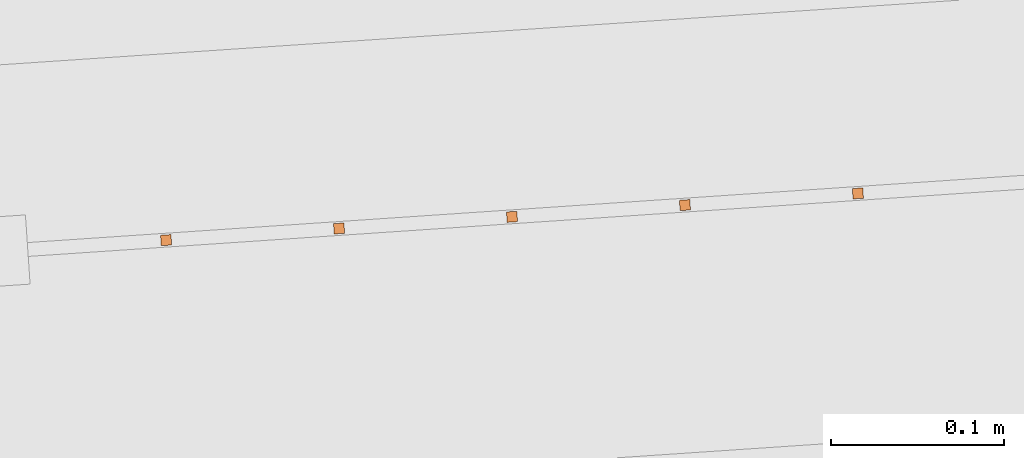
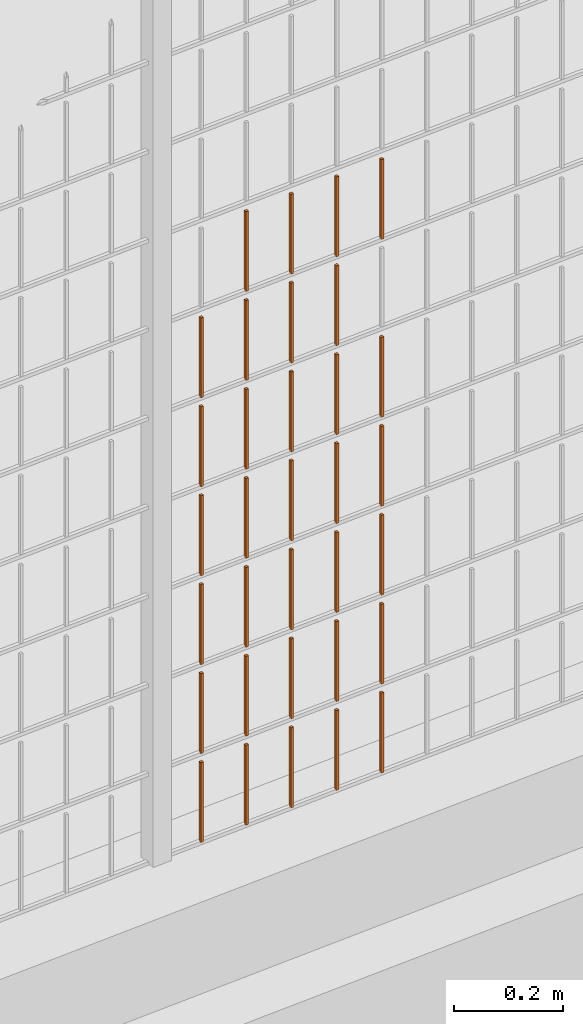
# One storey, part 298 of 1809: 33 proxies, 1 element without a shape of its own.
"""IFC2X3 building model written with IfcOpenShell, lengths in millimetres."""

from ifc_helpers import new_model, entity, si_unit, converted_unit, derived_unit, money_unit, direction, frame, origin_with_axes, place, context, subcontext, project, spatial, faceted_brep, source, transform, mapped, material, type_object, element, aggregate, save


model = new_model("IFC2X3")

# Units and contexts
model_context = context("Model", 3, precision=0.01, world=origin_with_axes(), true_north=direction((0.0, 1.0)))
body_context = subcontext(model_context, "Body", "Model", "MODEL_VIEW")
ifc_project = project(units=[si_unit("LENGTHUNIT", "METRE", prefix="MILLI"), si_unit("AREAUNIT", "SQUARE_METRE"), si_unit("VOLUMEUNIT", "CUBIC_METRE"), converted_unit("PLANEANGLEUNIT", "DEGREE", entity("IfcPlaneAngleMeasure", 0.0174532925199), si_unit("PLANEANGLEUNIT", "RADIAN"), dimensions=[0, 0, 0, 0, 0, 0, 0]), si_unit("SOLIDANGLEUNIT", "STERADIAN"), money_unit("EUR"), converted_unit("TIMEUNIT", "Year", entity("IfcTimeMeasure", 31556926.0), si_unit("TIMEUNIT", "SECOND"), dimensions=[0, 0, 1, 0, 0, 0, 0]), si_unit("MASSUNIT", "GRAM", prefix="KILO"), si_unit("THERMODYNAMICTEMPERATUREUNIT", "DEGREE_CELSIUS"), si_unit("LUMINOUSINTENSITYUNIT", "LUMEN"), si_unit("ENERGYUNIT", "JOULE", prefix="MEGA"), derived_unit("THERMALCONDUCTANCEUNIT", [(si_unit("POWERUNIT", "WATT"), 1), (si_unit("LENGTHUNIT", "METRE"), -1), (si_unit("THERMODYNAMICTEMPERATUREUNIT", "KELVIN"), -1)]), derived_unit("SPECIFICHEATCAPACITYUNIT", [(si_unit("ENERGYUNIT", "JOULE"), 1), (si_unit("MASSUNIT", "GRAM", prefix="KILO"), -1), (si_unit("THERMODYNAMICTEMPERATUREUNIT", "KELVIN"), -1)]), derived_unit("MASSDENSITYUNIT", [(si_unit("MASSUNIT", "GRAM", prefix="KILO"), 1), (si_unit("VOLUMEUNIT", "CUBIC_METRE"), -1)])], contexts=[model_context])

# Site, building, storey
site_placement = place(None, origin_with_axes())
site = spatial("IfcSite", under=ifc_project, at=site_placement, Name="Politse- ja Piirivalveameti ning Päästeameti ühishoone", CompositionType="ELEMENT")
building_placement = place(site_placement, origin_with_axes())
building = spatial("IfcBuilding", under=site, at=building_placement, Name="Politse- ja Piirivalveameti ning Päästeameti ühishoone", CompositionType="ELEMENT")
storey_placement = place(building_placement, origin_with_axes())
storey = spatial("IfcBuildingStorey", under=building, at=storey_placement, Name="Esimene korrus", CompositionType="ELEMENT", Elevation=0.0)

# Proxies
building_element_proxy_type_1 = type_object("IfcBuildingElementProxyType", Name="Railing Type", PredefinedType="NOTDEFINED")
proxy_1_placement = place(storey_placement, frame((89252.001212, -29183.4766571, 203.661247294), z_axis=(0.0, 0.0, 1.0), x_axis=(1.0, 0.0, 0.0)))
proxy_1 = element("IfcBuildingElementProxy", 1, at=proxy_1_placement, inside=storey, type_object=building_element_proxy_type_1, Name="PIIRDEAED")
ifc_material = material(Name="ET-03_Raud")
building_element_proxy_type_2 = type_object("IfcBuildingElementProxyType", Name="IfcBuildingElementProxy", PredefinedType="NOTDEFINED")
shared_shape_1 = source(origin_with_axes(), body_context, "Body", "Brep", [
    faceted_brep([(3.0, 3.0, -0.000752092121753), (-3.0, 3.0, -0.000752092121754), (-3.0, 3.0, 179.99926046), (3.0, 3.0, 179.99926046), (3.0, -3.0, 0.000752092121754), (-3.0, -3.0, 0.000752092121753), (-3.0, -3.0, 180.000764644), (3.0, -3.0, 180.000764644)], [[[0, 1, 2, 3]], [[0, 4, 5, 1]], [[1, 5, 6, 2]], [[3, 2, 6, 7]], [[4, 0, 3, 7]], [[5, 4, 7, 6]]]),
])
proxy_2_placement = place(proxy_1_placement, frame((-44225.9125845, -20285.0682541, 1216.12180124), z_axis=(0.0, 0.0, 1.0), x_axis=(1.0, 0.0, 0.0)))
proxy_2 = element("IfcBuildingElementProxy", 2, at=proxy_2_placement, type_object=building_element_proxy_type_2, material=ifc_material, Name="BALUSTER - 001", context=body_context, shape_type="MappedRepresentation", body=[
    mapped(shared_shape_1, transform((0.0, 0.0, 0.0), x_axis=(-0.0673926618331, 0.997726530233, 0.0), y_axis=(-0.997726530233, -0.0673926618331, 0.0), z_axis=(0.0, 0.0, 1.0))),
])
shared_shape_2 = source(origin_with_axes(), body_context, "Body", "Brep", [
    faceted_brep([(3.0, 3.0, -0.000752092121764), (-3.0, 3.0, -0.000752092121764), (-3.0, 3.0, 179.99926046), (3.0, 3.0, 179.99926046), (3.0, -3.0, 0.000752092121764), (-3.0, -3.0, 0.000752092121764), (-3.0, -3.0, 180.000764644), (3.0, -3.0, 180.000764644)], [[[0, 1, 2, 3]], [[0, 4, 5, 1]], [[1, 5, 6, 2]], [[3, 2, 6, 7]], [[4, 0, 3, 7]], [[5, 4, 7, 6]]]),
])
proxy_3_placement = place(proxy_1_placement, frame((-44325.6852375, -20291.8075203, 616.096731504), z_axis=(0.0, 0.0, 1.0), x_axis=(1.0, 0.0, 0.0)))
proxy_3 = element("IfcBuildingElementProxy", 3, at=proxy_3_placement, type_object=building_element_proxy_type_2, material=ifc_material, Name="BALUSTER - 001", context=body_context, shape_type="MappedRepresentation", body=[
    mapped(shared_shape_2, transform((0.0, 0.0, 0.0), x_axis=(-0.0673926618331, 0.997726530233, 0.0), y_axis=(-0.997726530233, -0.0673926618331, 0.0), z_axis=(0.0, 0.0, 1.0))),
])
shared_shape_3 = source(origin_with_axes(), body_context, "Body", "Brep", [
    faceted_brep([(3.0, 3.0, -0.000752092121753), (-3.0, 3.0, -0.000752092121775), (-3.0, 3.0, 179.99926046), (3.0, 3.0, 179.99926046), (3.0, -3.0, 0.000752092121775), (-3.0, -3.0, 0.000752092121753), (-3.0, -3.0, 180.000764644), (3.0, -3.0, 180.000764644)], [[[0, 1, 2, 3]], [[0, 4, 5, 1]], [[1, 5, 6, 2]], [[3, 2, 6, 7]], [[4, 0, 3, 7]], [[5, 4, 7, 6]]]),
])
proxy_4_placement = place(proxy_1_placement, frame((-44625.0031966, -20312.0253189, 616.021522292), z_axis=(0.0, 0.0, 1.0), x_axis=(1.0, 0.0, 0.0)))
proxy_4 = element("IfcBuildingElementProxy", 4, at=proxy_4_placement, type_object=building_element_proxy_type_2, material=ifc_material, Name="BALUSTER - 001", context=body_context, shape_type="MappedRepresentation", body=[
    mapped(shared_shape_3, transform((0.0, 0.0, 0.0), x_axis=(-0.0673926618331, 0.997726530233, 0.0), y_axis=(-0.997726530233, -0.0673926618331, 0.0), z_axis=(0.0, 0.0, 1.0))),
])
shared_shape_4 = source(origin_with_axes(), body_context, "Body", "Brep", [
    faceted_brep([(3.0, 3.0, -0.000752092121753), (-3.0, 3.0, -0.000752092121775), (-3.0, 3.0, 179.99926046), (3.0, 3.0, 179.99926046), (3.0, -3.0, 0.000752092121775), (-3.0, -3.0, 0.000752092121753), (-3.0, -3.0, 180.000764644), (3.0, -3.0, 180.000764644)], [[[0, 1, 2, 3]], [[0, 4, 5, 1]], [[1, 5, 6, 2]], [[3, 2, 6, 7]], [[4, 0, 3, 7]], [[5, 4, 7, 6]]]),
])
proxy_5_placement = place(proxy_1_placement, frame((-44625.0031966, -20312.0253189, 416.021522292), z_axis=(0.0, 0.0, 1.0), x_axis=(1.0, 0.0, 0.0)))
proxy_5 = element("IfcBuildingElementProxy", 5, at=proxy_5_placement, type_object=building_element_proxy_type_2, material=ifc_material, Name="BALUSTER - 001", context=body_context, shape_type="MappedRepresentation", body=[
    mapped(shared_shape_4, transform((0.0, 0.0, 0.0), x_axis=(-0.0673926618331, 0.997726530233, 0.0), y_axis=(-0.997726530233, -0.0673926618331, 0.0), z_axis=(0.0, 0.0, 1.0))),
])
shared_shape_5 = source(origin_with_axes(), body_context, "Body", "Brep", [
    faceted_brep([(3.0, 3.0, -0.000752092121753), (-3.0, 3.0, -0.000752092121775), (-3.0, 3.0, 179.99926046), (3.0, 3.0, 179.99926046), (3.0, -3.0, 0.000752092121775), (-3.0, -3.0, 0.000752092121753), (-3.0, -3.0, 180.000764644), (3.0, -3.0, 180.000764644)], [[[0, 1, 2, 3]], [[0, 4, 5, 1]], [[1, 5, 6, 2]], [[3, 2, 6, 7]], [[4, 0, 3, 7]], [[5, 4, 7, 6]]]),
])
proxy_6_placement = place(proxy_1_placement, frame((-44525.2305436, -20305.2860527, 216.04659203), z_axis=(0.0, 0.0, 1.0), x_axis=(1.0, 0.0, 0.0)))
proxy_6 = element("IfcBuildingElementProxy", 6, at=proxy_6_placement, type_object=building_element_proxy_type_2, material=ifc_material, Name="BALUSTER - 001", context=body_context, shape_type="MappedRepresentation", body=[
    mapped(shared_shape_5, transform((0.0, 0.0, 0.0), x_axis=(-0.0673926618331, 0.997726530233, 0.0), y_axis=(-0.997726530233, -0.0673926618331, 0.0), z_axis=(0.0, 0.0, 1.0))),
])
shared_shape_6 = source(origin_with_axes(), body_context, "Body", "Brep", [
    faceted_brep([(3.0, 3.0, -0.000752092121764), (-3.0, 3.0, -0.000752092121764), (-3.0, 3.0, 179.99926046), (3.0, 3.0, 179.99926046), (3.0, -3.0, 0.000752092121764), (-3.0, -3.0, 0.000752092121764), (-3.0, -3.0, 180.000764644), (3.0, -3.0, 180.000764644)], [[[0, 1, 2, 3]], [[0, 4, 5, 1]], [[1, 5, 6, 2]], [[3, 2, 6, 7]], [[4, 0, 3, 7]], [[5, 4, 7, 6]]]),
])
proxy_7_placement = place(proxy_1_placement, frame((-44325.6852375, -20291.8075203, 416.096731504), z_axis=(0.0, 0.0, 1.0), x_axis=(1.0, 0.0, 0.0)))
proxy_7 = element("IfcBuildingElementProxy", 7, at=proxy_7_placement, type_object=building_element_proxy_type_2, material=ifc_material, Name="BALUSTER - 001", context=body_context, shape_type="MappedRepresentation", body=[
    mapped(shared_shape_6, transform((0.0, 0.0, 0.0), x_axis=(-0.0673926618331, 0.997726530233, 0.0), y_axis=(-0.997726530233, -0.0673926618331, 0.0), z_axis=(0.0, 0.0, 1.0))),
])
shared_shape_7 = source(origin_with_axes(), body_context, "Body", "Brep", [
    faceted_brep([(3.0, 3.0, -0.000752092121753), (-3.0, 3.0, -0.000752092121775), (-3.0, 3.0, 179.99926046), (3.0, 3.0, 179.99926046), (3.0, -3.0, 0.000752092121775), (-3.0, -3.0, 0.000752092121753), (-3.0, -3.0, 180.000764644), (3.0, -3.0, 180.000764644)], [[[0, 1, 2, 3]], [[0, 4, 5, 1]], [[1, 5, 6, 2]], [[3, 2, 6, 7]], [[4, 0, 3, 7]], [[5, 4, 7, 6]]]),
])
proxy_8_placement = place(proxy_1_placement, frame((-44525.2305436, -20305.2860527, 416.04659203), z_axis=(0.0, 0.0, 1.0), x_axis=(1.0, 0.0, 0.0)))
proxy_8 = element("IfcBuildingElementProxy", 8, at=proxy_8_placement, type_object=building_element_proxy_type_2, material=ifc_material, Name="BALUSTER - 001", context=body_context, shape_type="MappedRepresentation", body=[
    mapped(shared_shape_7, transform((0.0, 0.0, 0.0), x_axis=(-0.0673926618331, 0.997726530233, 0.0), y_axis=(-0.997726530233, -0.0673926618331, 0.0), z_axis=(0.0, 0.0, 1.0))),
])
shared_shape_8 = source(origin_with_axes(), body_context, "Body", "Brep", [
    faceted_brep([(3.0, 3.0, -0.000752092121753), (-3.0, 3.0, -0.000752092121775), (-3.0, 3.0, 179.99926046), (3.0, 3.0, 179.99926046), (3.0, -3.0, 0.000752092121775), (-3.0, -3.0, 0.000752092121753), (-3.0, -3.0, 180.000764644), (3.0, -3.0, 180.000764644)], [[[0, 1, 2, 3]], [[0, 4, 5, 1]], [[1, 5, 6, 2]], [[3, 2, 6, 7]], [[4, 0, 3, 7]], [[5, 4, 7, 6]]]),
])
proxy_9_placement = place(proxy_1_placement, frame((-44525.2305436, -20305.2860527, 616.04659203), z_axis=(0.0, 0.0, 1.0), x_axis=(1.0, 0.0, 0.0)))
proxy_9 = element("IfcBuildingElementProxy", 9, at=proxy_9_placement, type_object=building_element_proxy_type_2, material=ifc_material, Name="BALUSTER - 001", context=body_context, shape_type="MappedRepresentation", body=[
    mapped(shared_shape_8, transform((0.0, 0.0, 0.0), x_axis=(-0.0673926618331, 0.997726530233, 0.0), y_axis=(-0.997726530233, -0.0673926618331, 0.0), z_axis=(0.0, 0.0, 1.0))),
])
shared_shape_9 = source(origin_with_axes(), body_context, "Body", "Brep", [
    faceted_brep([(3.0, 3.0, -0.000752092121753), (-3.0, 3.0, -0.000752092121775), (-3.0, 3.0, 179.99926046), (3.0, 3.0, 179.99926046), (3.0, -3.0, 0.000752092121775), (-3.0, -3.0, 0.000752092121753), (-3.0, -3.0, 180.000764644), (3.0, -3.0, 180.000764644)], [[[0, 1, 2, 3]], [[0, 4, 5, 1]], [[1, 5, 6, 2]], [[3, 2, 6, 7]], [[4, 0, 3, 7]], [[5, 4, 7, 6]]]),
])
proxy_10_placement = place(proxy_1_placement, frame((-44525.2305436, -20305.2860527, 816.04659203), z_axis=(0.0, 0.0, 1.0), x_axis=(1.0, 0.0, 0.0)))
proxy_10 = element("IfcBuildingElementProxy", 10, at=proxy_10_placement, type_object=building_element_proxy_type_2, material=ifc_material, Name="BALUSTER - 001", context=body_context, shape_type="MappedRepresentation", body=[
    mapped(shared_shape_9, transform((0.0, 0.0, 0.0), x_axis=(-0.0673926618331, 0.997726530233, 0.0), y_axis=(-0.997726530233, -0.0673926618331, 0.0), z_axis=(0.0, 0.0, 1.0))),
])
shared_shape_10 = source(origin_with_axes(), body_context, "Body", "Brep", [
    faceted_brep([(3.0, 3.0, -0.000752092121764), (-3.0, 3.0, -0.000752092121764), (-3.0, 3.0, 179.99926046), (3.0, 3.0, 179.99926046), (3.0, -3.0, 0.000752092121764), (-3.0, -3.0, 0.000752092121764), (-3.0, -3.0, 180.000764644), (3.0, -3.0, 180.000764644)], [[[0, 1, 2, 3]], [[0, 4, 5, 1]], [[1, 5, 6, 2]], [[3, 2, 6, 7]], [[4, 0, 3, 7]], [[5, 4, 7, 6]]]),
])
proxy_11_placement = place(proxy_1_placement, frame((-44325.6852375, -20291.8075203, 816.096731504), z_axis=(0.0, 0.0, 1.0), x_axis=(1.0, 0.0, 0.0)))
proxy_11 = element("IfcBuildingElementProxy", 11, at=proxy_11_placement, type_object=building_element_proxy_type_2, material=ifc_material, Name="BALUSTER - 001", context=body_context, shape_type="MappedRepresentation", body=[
    mapped(shared_shape_10, transform((0.0, 0.0, 0.0), x_axis=(-0.0673926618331, 0.997726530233, 0.0), y_axis=(-0.997726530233, -0.0673926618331, 0.0), z_axis=(0.0, 0.0, 1.0))),
])
proxy_12_placement = place(proxy_1_placement, frame((-44425.4578906, -20298.5467865, 1216.07166177), z_axis=(0.0, 0.0, 1.0), x_axis=(1.0, 0.0, 0.0)))
proxy_12 = element("IfcBuildingElementProxy", 12, at=proxy_12_placement, type_object=building_element_proxy_type_2, material=ifc_material, Name="BALUSTER - 001", context=body_context, shape_type="MappedRepresentation", body=[
    mapped(shared_shape_10, transform((0.0, 0.0, 0.0), x_axis=(-0.0673926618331, 0.997726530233, 0.0), y_axis=(-0.997726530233, -0.0673926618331, 0.0), z_axis=(0.0, 0.0, 1.0))),
])
shared_shape_11 = source(origin_with_axes(), body_context, "Body", "Brep", [
    faceted_brep([(3.0, 3.0, -0.000752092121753), (-3.0, 3.0, -0.000752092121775), (-3.0, 3.0, 179.99926046), (3.0, 3.0, 179.99926046), (3.0, -3.0, 0.000752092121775), (-3.0, -3.0, 0.000752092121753), (-3.0, -3.0, 180.000764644), (3.0, -3.0, 180.000764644)], [[[0, 1, 2, 3]], [[0, 4, 5, 1]], [[1, 5, 6, 2]], [[3, 2, 6, 7]], [[4, 0, 3, 7]], [[5, 4, 7, 6]]]),
])
proxy_13_placement = place(proxy_1_placement, frame((-44625.0031966, -20312.0253189, 816.021522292), z_axis=(0.0, 0.0, 1.0), x_axis=(1.0, 0.0, 0.0)))
proxy_13 = element("IfcBuildingElementProxy", 13, at=proxy_13_placement, type_object=building_element_proxy_type_2, material=ifc_material, Name="BALUSTER - 001", context=body_context, shape_type="MappedRepresentation", body=[
    mapped(shared_shape_11, transform((0.0, 0.0, 0.0), x_axis=(-0.0673926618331, 0.997726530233, 0.0), y_axis=(-0.997726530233, -0.0673926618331, 0.0), z_axis=(0.0, 0.0, 1.0))),
])
shared_shape_12 = source(origin_with_axes(), body_context, "Body", "Brep", [
    faceted_brep([(3.0, 3.0, -0.000752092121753), (-3.0, 3.0, -0.000752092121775), (-3.0, 3.0, 179.99926046), (3.0, 3.0, 179.99926046), (3.0, -3.0, 0.000752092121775), (-3.0, -3.0, 0.000752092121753), (-3.0, -3.0, 180.000764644), (3.0, -3.0, 180.000764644)], [[[0, 1, 2, 3]], [[0, 4, 5, 1]], [[1, 5, 6, 2]], [[3, 2, 6, 7]], [[4, 0, 3, 7]], [[5, 4, 7, 6]]]),
])
proxy_14_placement = place(proxy_1_placement, frame((-44625.0031966, -20312.0253189, 16.0215222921), z_axis=(0.0, 0.0, 1.0), x_axis=(1.0, 0.0, 0.0)))
proxy_14 = element("IfcBuildingElementProxy", 14, at=proxy_14_placement, type_object=building_element_proxy_type_2, material=ifc_material, Name="BALUSTER - 001", context=body_context, shape_type="MappedRepresentation", body=[
    mapped(shared_shape_12, transform((0.0, 0.0, 0.0), x_axis=(-0.0673926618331, 0.997726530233, 0.0), y_axis=(-0.997726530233, -0.0673926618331, 0.0), z_axis=(0.0, 0.0, 1.0))),
])
shared_shape_13 = source(origin_with_axes(), body_context, "Body", "Brep", [
    faceted_brep([(3.0, 3.0, -0.000752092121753), (-3.0, 3.0, -0.000752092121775), (-3.0, 3.0, 179.99926046), (3.0, 3.0, 179.99926046), (3.0, -3.0, 0.000752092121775), (-3.0, -3.0, 0.000752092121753), (-3.0, -3.0, 180.000764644), (3.0, -3.0, 180.000764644)], [[[0, 1, 2, 3]], [[0, 4, 5, 1]], [[1, 5, 6, 2]], [[3, 2, 6, 7]], [[4, 0, 3, 7]], [[5, 4, 7, 6]]]),
])
proxy_15_placement = place(proxy_1_placement, frame((-44425.4578906, -20298.5467865, 216.071661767), z_axis=(0.0, 0.0, 1.0), x_axis=(1.0, 0.0, 0.0)))
proxy_15 = element("IfcBuildingElementProxy", 15, at=proxy_15_placement, type_object=building_element_proxy_type_2, material=ifc_material, Name="BALUSTER - 001", context=body_context, shape_type="MappedRepresentation", body=[
    mapped(shared_shape_13, transform((0.0, 0.0, 0.0), x_axis=(-0.0673926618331, 0.997726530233, 0.0), y_axis=(-0.997726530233, -0.0673926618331, 0.0), z_axis=(0.0, 0.0, 1.0))),
])
proxy_16_placement = place(proxy_1_placement, frame((-44425.4578906, -20298.5467865, 416.071661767), z_axis=(0.0, 0.0, 1.0), x_axis=(1.0, 0.0, 0.0)))
proxy_16 = element("IfcBuildingElementProxy", 16, at=proxy_16_placement, type_object=building_element_proxy_type_2, material=ifc_material, Name="BALUSTER - 001", context=body_context, shape_type="MappedRepresentation", body=[
    mapped(shared_shape_13, transform((0.0, 0.0, 0.0), x_axis=(-0.0673926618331, 0.997726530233, 0.0), y_axis=(-0.997726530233, -0.0673926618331, 0.0), z_axis=(0.0, 0.0, 1.0))),
])
shared_shape_14 = source(origin_with_axes(), body_context, "Body", "Brep", [
    faceted_brep([(3.0, 3.0, -0.000752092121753), (-3.0, 3.0, -0.000752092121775), (-3.0, 3.0, 179.99926046), (3.0, 3.0, 179.99926046), (3.0, -3.0, 0.000752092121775), (-3.0, -3.0, 0.000752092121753), (-3.0, -3.0, 180.000764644), (3.0, -3.0, 180.000764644)], [[[0, 1, 2, 3]], [[0, 4, 5, 1]], [[1, 5, 6, 2]], [[3, 2, 6, 7]], [[4, 0, 3, 7]], [[5, 4, 7, 6]]]),
])
proxy_17_placement = place(proxy_1_placement, frame((-44625.0031966, -20312.0253189, 216.021522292), z_axis=(0.0, 0.0, 1.0), x_axis=(1.0, 0.0, 0.0)))
proxy_17 = element("IfcBuildingElementProxy", 17, at=proxy_17_placement, type_object=building_element_proxy_type_2, material=ifc_material, Name="BALUSTER - 001", context=body_context, shape_type="MappedRepresentation", body=[
    mapped(shared_shape_14, transform((0.0, 0.0, 0.0), x_axis=(-0.0673926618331, 0.997726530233, 0.0), y_axis=(-0.997726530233, -0.0673926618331, 0.0), z_axis=(0.0, 0.0, 1.0))),
])
shared_shape_15 = source(origin_with_axes(), body_context, "Body", "Brep", [
    faceted_brep([(3.0, 3.0, -0.000752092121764), (-3.0, 3.0, -0.000752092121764), (-3.0, 3.0, 179.99926046), (3.0, 3.0, 179.99926046), (3.0, -3.0, 0.000752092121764), (-3.0, -3.0, 0.000752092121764), (-3.0, -3.0, 180.000764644), (3.0, -3.0, 180.000764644)], [[[0, 1, 2, 3]], [[0, 4, 5, 1]], [[1, 5, 6, 2]], [[3, 2, 6, 7]], [[4, 0, 3, 7]], [[5, 4, 7, 6]]]),
])
proxy_18_placement = place(proxy_1_placement, frame((-44225.9125845, -20285.0682541, 216.121801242), z_axis=(0.0, 0.0, 1.0), x_axis=(1.0, 0.0, 0.0)))
proxy_18 = element("IfcBuildingElementProxy", 18, at=proxy_18_placement, type_object=building_element_proxy_type_2, material=ifc_material, Name="BALUSTER - 001", context=body_context, shape_type="MappedRepresentation", body=[
    mapped(shared_shape_15, transform((0.0, 0.0, 0.0), x_axis=(-0.0673926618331, 0.997726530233, 0.0), y_axis=(-0.997726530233, -0.0673926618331, 0.0), z_axis=(0.0, 0.0, 1.0))),
])
proxy_19_placement = place(proxy_1_placement, frame((-44225.9125845, -20285.0682541, 416.121801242), z_axis=(0.0, 0.0, 1.0), x_axis=(1.0, 0.0, 0.0)))
proxy_19 = element("IfcBuildingElementProxy", 19, at=proxy_19_placement, type_object=building_element_proxy_type_2, material=ifc_material, Name="BALUSTER - 001", context=body_context, shape_type="MappedRepresentation", body=[
    mapped(shared_shape_15, transform((0.0, 0.0, 0.0), x_axis=(-0.0673926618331, 0.997726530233, 0.0), y_axis=(-0.997726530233, -0.0673926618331, 0.0), z_axis=(0.0, 0.0, 1.0))),
])
shared_shape_16 = source(origin_with_axes(), body_context, "Body", "Brep", [
    faceted_brep([(3.0, 3.0, -0.000752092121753), (-3.0, 3.0, -0.000752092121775), (-3.0, 3.0, 179.99926046), (3.0, 3.0, 179.99926046), (3.0, -3.0, 0.000752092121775), (-3.0, -3.0, 0.000752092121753), (-3.0, -3.0, 180.000764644), (3.0, -3.0, 180.000764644)], [[[0, 1, 2, 3]], [[0, 4, 5, 1]], [[1, 5, 6, 2]], [[3, 2, 6, 7]], [[4, 0, 3, 7]], [[5, 4, 7, 6]]]),
])
proxy_20_placement = place(proxy_1_placement, frame((-44425.4578906, -20298.5467865, 616.071661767), z_axis=(0.0, 0.0, 1.0), x_axis=(1.0, 0.0, 0.0)))
proxy_20 = element("IfcBuildingElementProxy", 20, at=proxy_20_placement, type_object=building_element_proxy_type_2, material=ifc_material, Name="BALUSTER - 001", context=body_context, shape_type="MappedRepresentation", body=[
    mapped(shared_shape_16, transform((0.0, 0.0, 0.0), x_axis=(-0.0673926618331, 0.997726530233, 0.0), y_axis=(-0.997726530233, -0.0673926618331, 0.0), z_axis=(0.0, 0.0, 1.0))),
])
proxy_21_placement = place(proxy_1_placement, frame((-44425.4578906, -20298.5467865, 816.071661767), z_axis=(0.0, 0.0, 1.0), x_axis=(1.0, 0.0, 0.0)))
proxy_21 = element("IfcBuildingElementProxy", 21, at=proxy_21_placement, type_object=building_element_proxy_type_2, material=ifc_material, Name="BALUSTER - 001", context=body_context, shape_type="MappedRepresentation", body=[
    mapped(shared_shape_16, transform((0.0, 0.0, 0.0), x_axis=(-0.0673926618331, 0.997726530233, 0.0), y_axis=(-0.997726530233, -0.0673926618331, 0.0), z_axis=(0.0, 0.0, 1.0))),
])
shared_shape_17 = source(origin_with_axes(), body_context, "Body", "Brep", [
    faceted_brep([(3.0, 3.0, -0.000752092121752), (-3.0, 3.0, -0.000752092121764), (-3.00000000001, 2.99999999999, 179.99926046), (2.99999999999, 2.99999999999, 179.99926046), (3.0, -3.0, 0.000752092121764), (-3.0, -3.0, 0.000752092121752), (-3.00000000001, -3.00000000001, 180.000764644), (2.99999999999, -3.00000000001, 180.000764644)], [[[0, 1, 2, 3]], [[0, 4, 5, 1]], [[1, 5, 6, 2]], [[3, 2, 6, 7]], [[4, 0, 3, 7]], [[5, 4, 7, 6]]]),
])
proxy_22_placement = place(proxy_1_placement, frame((-44325.6852375, -20291.8075203, 1016.0967315), z_axis=(0.0, 0.0, 1.0), x_axis=(1.0, 0.0, 0.0)))
proxy_22 = element("IfcBuildingElementProxy", 22, at=proxy_22_placement, type_object=building_element_proxy_type_2, material=ifc_material, Name="BALUSTER - 001", context=body_context, shape_type="MappedRepresentation", body=[
    mapped(shared_shape_17, transform((0.0, 0.0, 0.0), x_axis=(-0.0673926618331, 0.997726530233, 0.0), y_axis=(-0.997726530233, -0.0673926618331, 0.0), z_axis=(0.0, 0.0, 1.0))),
])
shared_shape_18 = source(origin_with_axes(), body_context, "Body", "Brep", [
    faceted_brep([(3.0, 3.0, -0.000752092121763), (-3.0, 3.0, -0.000752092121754), (-3.00000000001, 2.99999999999, 179.99926046), (2.99999999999, 2.99999999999, 179.99926046), (3.0, -3.0, 0.000752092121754), (-3.0, -3.0, 0.000752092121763), (-3.00000000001, -3.00000000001, 180.000764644), (2.99999999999, -3.00000000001, 180.000764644)], [[[0, 1, 2, 3]], [[0, 4, 5, 1]], [[1, 5, 6, 2]], [[3, 2, 6, 7]], [[4, 0, 3, 7]], [[5, 4, 7, 6]]]),
])
proxy_23_placement = place(proxy_1_placement, frame((-44625.0031966, -20312.0253189, 1016.02152229), z_axis=(0.0, 0.0, 1.0), x_axis=(1.0, 0.0, 0.0)))
proxy_23 = element("IfcBuildingElementProxy", 23, at=proxy_23_placement, type_object=building_element_proxy_type_2, material=ifc_material, Name="BALUSTER - 001", context=body_context, shape_type="MappedRepresentation", body=[
    mapped(shared_shape_18, transform((0.0, 0.0, 0.0), x_axis=(-0.0673926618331, 0.997726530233, 0.0), y_axis=(-0.997726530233, -0.0673926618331, 0.0), z_axis=(0.0, 0.0, 1.0))),
])
shared_shape_19 = source(origin_with_axes(), body_context, "Body", "Brep", [
    faceted_brep([(3.0, 3.0, -0.000752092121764), (-3.0, 3.0, -0.000752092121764), (-3.0, 3.0, 179.99926046), (3.0, 3.0, 179.99926046), (3.0, -3.0, 0.000752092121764), (-3.0, -3.0, 0.000752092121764), (-3.0, -3.0, 180.000764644), (3.0, -3.0, 180.000764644)], [[[0, 1, 2, 3]], [[0, 4, 5, 1]], [[1, 5, 6, 2]], [[3, 2, 6, 7]], [[4, 0, 3, 7]], [[5, 4, 7, 6]]]),
])
proxy_24_placement = place(proxy_1_placement, frame((-44225.9125845, -20285.0682541, 816.121801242), z_axis=(0.0, 0.0, 1.0), x_axis=(1.0, 0.0, 0.0)))
proxy_24 = element("IfcBuildingElementProxy", 24, at=proxy_24_placement, type_object=building_element_proxy_type_2, material=ifc_material, Name="BALUSTER - 001", context=body_context, shape_type="MappedRepresentation", body=[
    mapped(shared_shape_19, transform((0.0, 0.0, 0.0), x_axis=(-0.0673926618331, 0.997726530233, 0.0), y_axis=(-0.997726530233, -0.0673926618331, 0.0), z_axis=(0.0, 0.0, 1.0))),
])
shared_shape_20 = source(origin_with_axes(), body_context, "Body", "Brep", [
    faceted_brep([(3.0, 3.0, -0.000752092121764), (-3.0, 3.0, -0.000752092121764), (-3.0, 3.0, 179.99926046), (3.0, 3.0, 179.99926046), (3.0, -3.0, 0.000752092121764), (-3.0, -3.0, 0.000752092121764), (-3.0, -3.0, 180.000764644), (3.0, -3.0, 180.000764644)], [[[0, 1, 2, 3]], [[0, 4, 5, 1]], [[1, 5, 6, 2]], [[3, 2, 6, 7]], [[4, 0, 3, 7]], [[5, 4, 7, 6]]]),
])
proxy_25_placement = place(proxy_1_placement, frame((-44325.6852375, -20291.8075203, 16.0967315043), z_axis=(0.0, 0.0, 1.0), x_axis=(1.0, 0.0, 0.0)))
proxy_25 = element("IfcBuildingElementProxy", 25, at=proxy_25_placement, type_object=building_element_proxy_type_2, material=ifc_material, Name="BALUSTER - 001", context=body_context, shape_type="MappedRepresentation", body=[
    mapped(shared_shape_20, transform((0.0, 0.0, 0.0), x_axis=(-0.0673926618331, 0.997726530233, 0.0), y_axis=(-0.997726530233, -0.0673926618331, 0.0), z_axis=(0.0, 0.0, 1.0))),
])
shared_shape_21 = source(origin_with_axes(), body_context, "Body", "Brep", [
    faceted_brep([(3.0, 3.0, -0.000752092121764), (-3.0, 3.0, -0.000752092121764), (-3.0, 3.0, 179.99926046), (3.0, 3.0, 179.99926046), (3.0, -3.0, 0.000752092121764), (-3.0, -3.0, 0.000752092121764), (-3.0, -3.0, 180.000764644), (3.0, -3.0, 180.000764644)], [[[0, 1, 2, 3]], [[0, 4, 5, 1]], [[1, 5, 6, 2]], [[3, 2, 6, 7]], [[4, 0, 3, 7]], [[5, 4, 7, 6]]]),
])
proxy_26_placement = place(proxy_1_placement, frame((-44225.9125845, -20285.0682541, 616.121801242), z_axis=(0.0, 0.0, 1.0), x_axis=(1.0, 0.0, 0.0)))
proxy_26 = element("IfcBuildingElementProxy", 26, at=proxy_26_placement, type_object=building_element_proxy_type_2, material=ifc_material, Name="BALUSTER - 001", context=body_context, shape_type="MappedRepresentation", body=[
    mapped(shared_shape_21, transform((0.0, 0.0, 0.0), x_axis=(-0.0673926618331, 0.997726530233, 0.0), y_axis=(-0.997726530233, -0.0673926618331, 0.0), z_axis=(0.0, 0.0, 1.0))),
])
proxy_27_placement = place(proxy_1_placement, frame((-44325.6852375, -20291.8075203, 1216.0967315), z_axis=(0.0, 0.0, 1.0), x_axis=(1.0, 0.0, 0.0)))
proxy_27 = element("IfcBuildingElementProxy", 27, at=proxy_27_placement, type_object=building_element_proxy_type_2, material=ifc_material, Name="BALUSTER - 001", context=body_context, shape_type="MappedRepresentation", body=[
    mapped(shared_shape_21, transform((0.0, 0.0, 0.0), x_axis=(-0.0673926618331, 0.997726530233, 0.0), y_axis=(-0.997726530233, -0.0673926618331, 0.0), z_axis=(0.0, 0.0, 1.0))),
])
shared_shape_22 = source(origin_with_axes(), body_context, "Body", "Brep", [
    faceted_brep([(3.0, 3.0, -0.000752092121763), (-3.0, 3.0, -0.000752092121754), (-3.00000000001, 2.99999999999, 179.99926046), (2.99999999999, 2.99999999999, 179.99926046), (3.0, -3.0, 0.000752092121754), (-3.0, -3.0, 0.000752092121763), (-3.00000000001, -3.00000000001, 180.000764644), (2.99999999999, -3.00000000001, 180.000764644)], [[[0, 1, 2, 3]], [[0, 4, 5, 1]], [[1, 5, 6, 2]], [[3, 2, 6, 7]], [[4, 0, 3, 7]], [[5, 4, 7, 6]]]),
])
proxy_28_placement = place(proxy_1_placement, frame((-44425.4578906, -20298.5467865, 1016.07166177), z_axis=(0.0, 0.0, 1.0), x_axis=(1.0, 0.0, 0.0)))
proxy_28 = element("IfcBuildingElementProxy", 28, at=proxy_28_placement, type_object=building_element_proxy_type_2, material=ifc_material, Name="BALUSTER - 001", context=body_context, shape_type="MappedRepresentation", body=[
    mapped(shared_shape_22, transform((0.0, 0.0, 0.0), x_axis=(-0.0673926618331, 0.997726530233, 0.0), y_axis=(-0.997726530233, -0.0673926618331, 0.0), z_axis=(0.0, 0.0, 1.0))),
])
shared_shape_23 = source(origin_with_axes(), body_context, "Body", "Brep", [
    faceted_brep([(3.0, 3.0, -0.000752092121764), (-3.0, 3.0, -0.000752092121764), (-3.0, 3.0, 179.99926046), (3.0, 3.0, 179.99926046), (3.0, -3.0, 0.000752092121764), (-3.0, -3.0, 0.000752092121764), (-3.0, -3.0, 180.000764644), (3.0, -3.0, 180.000764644)], [[[0, 1, 2, 3]], [[0, 4, 5, 1]], [[1, 5, 6, 2]], [[3, 2, 6, 7]], [[4, 0, 3, 7]], [[5, 4, 7, 6]]]),
])
proxy_29_placement = place(proxy_1_placement, frame((-44225.9125845, -20285.0682541, 16.1218012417), z_axis=(0.0, 0.0, 1.0), x_axis=(1.0, 0.0, 0.0)))
proxy_29 = element("IfcBuildingElementProxy", 29, at=proxy_29_placement, type_object=building_element_proxy_type_2, material=ifc_material, Name="BALUSTER - 001", context=body_context, shape_type="MappedRepresentation", body=[
    mapped(shared_shape_23, transform((0.0, 0.0, 0.0), x_axis=(-0.0673926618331, 0.997726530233, 0.0), y_axis=(-0.997726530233, -0.0673926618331, 0.0), z_axis=(0.0, 0.0, 1.0))),
])
shared_shape_24 = source(origin_with_axes(), body_context, "Body", "Brep", [
    faceted_brep([(3.0, 3.0, -0.000752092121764), (-3.0, 3.0, -0.000752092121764), (-3.0, 3.0, 179.99926046), (3.0, 3.0, 179.99926046), (3.0, -3.0, 0.000752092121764), (-3.0, -3.0, 0.000752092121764), (-3.0, -3.0, 180.000764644), (3.0, -3.0, 180.000764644)], [[[0, 1, 2, 3]], [[0, 4, 5, 1]], [[1, 5, 6, 2]], [[3, 2, 6, 7]], [[4, 0, 3, 7]], [[5, 4, 7, 6]]]),
])
proxy_30_placement = place(proxy_1_placement, frame((-44325.6852375, -20291.8075203, 216.096731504), z_axis=(0.0, 0.0, 1.0), x_axis=(1.0, 0.0, 0.0)))
proxy_30 = element("IfcBuildingElementProxy", 30, at=proxy_30_placement, type_object=building_element_proxy_type_2, material=ifc_material, Name="BALUSTER - 001", context=body_context, shape_type="MappedRepresentation", body=[
    mapped(shared_shape_24, transform((0.0, 0.0, 0.0), x_axis=(-0.0673926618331, 0.997726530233, 0.0), y_axis=(-0.997726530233, -0.0673926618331, 0.0), z_axis=(0.0, 0.0, 1.0))),
])
shared_shape_25 = source(origin_with_axes(), body_context, "Body", "Brep", [
    faceted_brep([(3.0, 3.0, -0.000752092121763), (-3.0, 3.0, -0.000752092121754), (-3.00000000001, 2.99999999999, 179.99926046), (2.99999999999, 2.99999999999, 179.99926046), (3.0, -3.0, 0.000752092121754), (-3.0, -3.0, 0.000752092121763), (-3.00000000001, -3.00000000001, 180.000764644), (2.99999999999, -3.00000000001, 180.000764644)], [[[0, 1, 2, 3]], [[0, 4, 5, 1]], [[1, 5, 6, 2]], [[3, 2, 6, 7]], [[4, 0, 3, 7]], [[5, 4, 7, 6]]]),
])
proxy_31_placement = place(proxy_1_placement, frame((-44525.2305436, -20305.2860527, 1016.04659203), z_axis=(0.0, 0.0, 1.0), x_axis=(1.0, 0.0, 0.0)))
proxy_31 = element("IfcBuildingElementProxy", 31, at=proxy_31_placement, type_object=building_element_proxy_type_2, material=ifc_material, Name="BALUSTER - 001", context=body_context, shape_type="MappedRepresentation", body=[
    mapped(shared_shape_25, transform((0.0, 0.0, 0.0), x_axis=(-0.0673926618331, 0.997726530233, 0.0), y_axis=(-0.997726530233, -0.0673926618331, 0.0), z_axis=(0.0, 0.0, 1.0))),
])
shared_shape_26 = source(origin_with_axes(), body_context, "Body", "Brep", [
    faceted_brep([(3.0, 3.0, -0.000752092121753), (-3.0, 3.0, -0.000752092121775), (-3.0, 3.0, 179.99926046), (3.0, 3.0, 179.99926046), (3.0, -3.0, 0.000752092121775), (-3.0, -3.0, 0.000752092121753), (-3.0, -3.0, 180.000764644), (3.0, -3.0, 180.000764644)], [[[0, 1, 2, 3]], [[0, 4, 5, 1]], [[1, 5, 6, 2]], [[3, 2, 6, 7]], [[4, 0, 3, 7]], [[5, 4, 7, 6]]]),
])
proxy_32_placement = place(proxy_1_placement, frame((-44525.2305436, -20305.2860527, 16.0465920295), z_axis=(0.0, 0.0, 1.0), x_axis=(1.0, 0.0, 0.0)))
proxy_32 = element("IfcBuildingElementProxy", 32, at=proxy_32_placement, type_object=building_element_proxy_type_2, material=ifc_material, Name="BALUSTER - 001", context=body_context, shape_type="MappedRepresentation", body=[
    mapped(shared_shape_26, transform((0.0, 0.0, 0.0), x_axis=(-0.0673926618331, 0.997726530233, 0.0), y_axis=(-0.997726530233, -0.0673926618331, 0.0), z_axis=(0.0, 0.0, 1.0))),
])
shared_shape_27 = source(origin_with_axes(), body_context, "Body", "Brep", [
    faceted_brep([(3.0, 3.0, -0.000752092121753), (-3.0, 3.0, -0.000752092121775), (-3.0, 3.0, 179.99926046), (3.0, 3.0, 179.99926046), (3.0, -3.0, 0.000752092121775), (-3.0, -3.0, 0.000752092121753), (-3.0, -3.0, 180.000764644), (3.0, -3.0, 180.000764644)], [[[0, 1, 2, 3]], [[0, 4, 5, 1]], [[1, 5, 6, 2]], [[3, 2, 6, 7]], [[4, 0, 3, 7]], [[5, 4, 7, 6]]]),
])
proxy_33_placement = place(proxy_1_placement, frame((-44525.2305436, -20305.2860527, 1216.04659203), z_axis=(0.0, 0.0, 1.0), x_axis=(1.0, 0.0, 0.0)))
proxy_33 = element("IfcBuildingElementProxy", 33, at=proxy_33_placement, type_object=building_element_proxy_type_2, material=ifc_material, Name="BALUSTER - 001", context=body_context, shape_type="MappedRepresentation", body=[
    mapped(shared_shape_27, transform((0.0, 0.0, 0.0), x_axis=(-0.0673926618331, 0.997726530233, 0.0), y_axis=(-0.997726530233, -0.0673926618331, 0.0), z_axis=(0.0, 0.0, 1.0))),
])
shared_shape_28 = source(origin_with_axes(), body_context, "Body", "Brep", [
    faceted_brep([(3.0, 3.0, -0.000752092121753), (-3.0, 3.0, -0.000752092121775), (-3.0, 3.0, 179.99926046), (3.0, 3.0, 179.99926046), (3.0, -3.0, 0.000752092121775), (-3.0, -3.0, 0.000752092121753), (-3.0, -3.0, 180.000764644), (3.0, -3.0, 180.000764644)], [[[0, 1, 2, 3]], [[0, 4, 5, 1]], [[1, 5, 6, 2]], [[3, 2, 6, 7]], [[4, 0, 3, 7]], [[5, 4, 7, 6]]]),
])
proxy_34_placement = place(proxy_1_placement, frame((-44425.4578906, -20298.5467865, 16.0716617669), z_axis=(0.0, 0.0, 1.0), x_axis=(1.0, 0.0, 0.0)))
proxy_34 = element("IfcBuildingElementProxy", 34, at=proxy_34_placement, type_object=building_element_proxy_type_2, material=ifc_material, Name="BALUSTER - 001", context=body_context, shape_type="MappedRepresentation", body=[
    mapped(shared_shape_28, transform((0.0, 0.0, 0.0), x_axis=(-0.0673926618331, 0.997726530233, 0.0), y_axis=(-0.997726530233, -0.0673926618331, 0.0), z_axis=(0.0, 0.0, 1.0))),
])
aggregate(proxy_1, [proxy_29, proxy_25, proxy_34, proxy_32, proxy_14, proxy_18, proxy_30, proxy_15, proxy_6, proxy_17, proxy_19, proxy_7, proxy_16, proxy_8, proxy_5, proxy_26, proxy_3, proxy_20, proxy_9, proxy_4, proxy_24, proxy_11, proxy_21, proxy_10, proxy_13, proxy_22, proxy_28, proxy_31, proxy_23, proxy_2, proxy_27, proxy_12, proxy_33])

save(model, "model.ifc")
